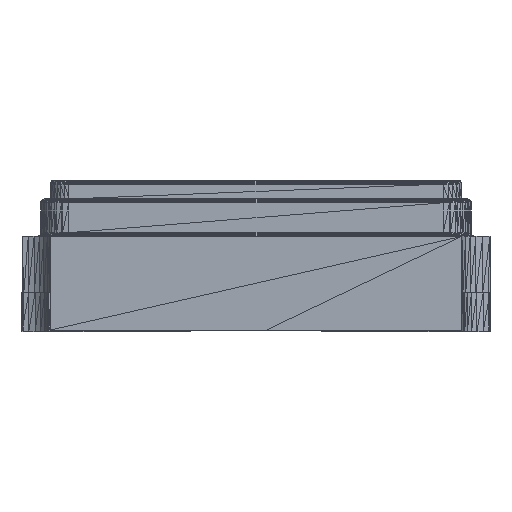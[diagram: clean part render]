
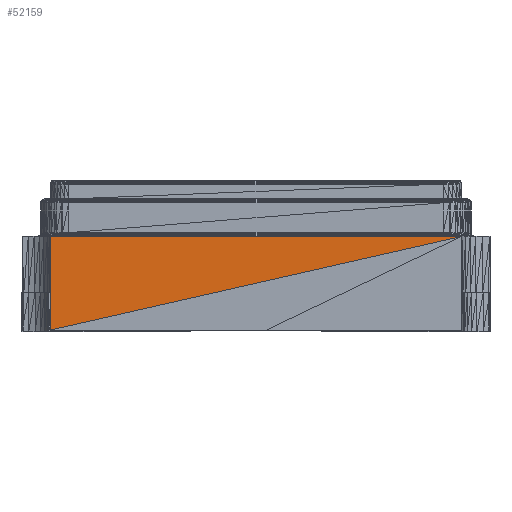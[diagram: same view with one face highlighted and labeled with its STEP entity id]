
A CAD part, left-side view. The second image highlights one B-rep face of the part: STEP entity #52159.
In plain terms, the highlighted planar face has unit normal (-1, 0, 0).
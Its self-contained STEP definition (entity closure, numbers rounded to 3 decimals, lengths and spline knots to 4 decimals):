
#11=DIRECTION('',(0.0,0.0,1.0));
#2610=VECTOR('',#11,1000.0);
#3340=DIRECTION('',(0.0,1.0,0.0));
#3341=VECTOR('',#3340,1000.0);
#32920=DIRECTION('',(-1.0,-0.0,-0.0));
#49222=CARTESIAN_POINT('',(-1.6,1.1,0.0));
#49223=VERTEX_POINT('',#49222);
#49312=CARTESIAN_POINT('',(-1.6,1.1,0.5));
#49313=VERTEX_POINT('',#49312);
#49344=CARTESIAN_POINT('',(-1.6,-1.1,0.5));
#49345=VERTEX_POINT('',#49344);
#51825=LINE('',#49222,#2610);
#51826=EDGE_CURVE('',#49223,#49313,#51825,.T.);
#52145=DIRECTION('',(0.0,-0.975,0.222));
#52146=VECTOR('',#52145,1000.0);
#52147=LINE('',#49222,#52146);
#52148=EDGE_CURVE('',#49223,#49345,#52147,.T.);
#52149=LINE('',#49344,#3341);
#52150=EDGE_CURVE('',#49345,#49313,#52149,.T.);
#52151=ORIENTED_EDGE('',*,*,#51826,.F.);
#52152=ORIENTED_EDGE('',*,*,#52148,.T.);
#52153=ORIENTED_EDGE('',*,*,#52150,.T.);
#52154=DIRECTION('',(0.0,0.0,-1.0));
#52155=AXIS2_PLACEMENT_3D('',#49312,#32920,#52154);
#52156=PLANE('',#52155);
#52157=EDGE_LOOP('',(#52151,#52152,#52153));
#52158=FACE_BOUND('',#52157,.T.);
#52159=ADVANCED_FACE('',(#52158),#52156,.T.);
